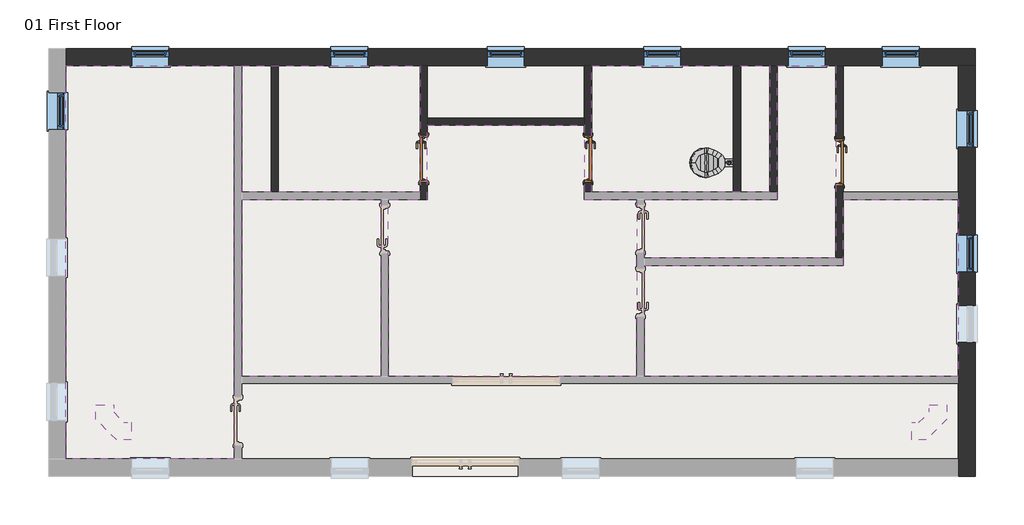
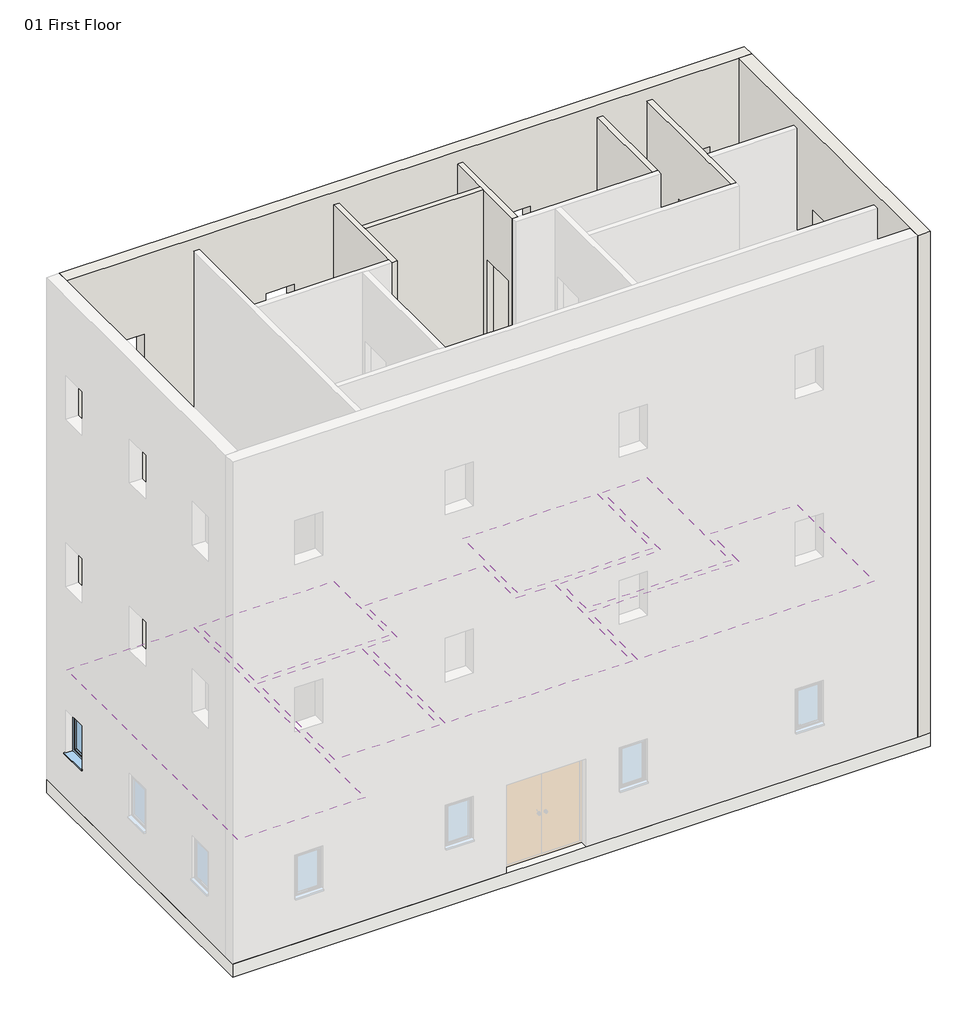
# One storey, part 2 of 2: 9 walls, 9 windows, 7 coverings, 3 doors, 2 cable carrier fittings, 1 flow terminal, 1 slab.
"""IFC4 building model written with IfcOpenShell, lengths in millimetres."""

from ifc_helpers import new_model, si_unit, frame, origin, origin_with_axes, place, context, project, spatial, polyline, outline, extrude, faceted_brep, transform, mapped, element, save
from components import cable_tray_horizontal_bend_standard_e2de60b4, intsgl_1_810_x_2110mm_5ef26f82, intsgl_1_810_x_2110mm_60c2a13c, m_water_closet_flush_valve_wall_mounted_private_6_1_lpf_4ab4cbdd, sgl_plain_630_x_1050mm_deep_554a1539

model = new_model("IFC4")

# Units and contexts
model_context = context("Model", 3, world=origin())
ifc_project = project(units=[si_unit("LENGTHUNIT", "METRE", prefix="MILLI")], contexts=[model_context])

# Site, building, storey
site = spatial("IfcSite", under=ifc_project)
building = spatial("IfcBuilding", under=site)
storey = spatial("IfcBuildingStorey", under=building, Name="01 First Floor", Elevation=0.0)

# Cable carrier fittings
placement = place(None, origin())
cable_tray_horizontal_bend_standard_shape = cable_tray_horizontal_bend_standard_e2de60b4(model_context)
element("IfcCableCarrierFitting", 1, ObjectType="Cable Tray Horizontal Bend : Standard", at=placement, inside=storey, context=model_context, shape_type="MappedRepresentation", body=[
    mapped(cable_tray_horizontal_bend_standard_shape, transform((8556.847993, -4345.0291205, 3000.0), x_axis=(1.0, 0.0, 0.0), y_axis=(0.0, 1.0, 0.0), z_axis=(0.0, 0.0, 1.0))),
])
element("IfcCableCarrierFitting", 2, ObjectType="Cable Tray Horizontal Bend : Standard", at=placement, inside=storey, context=model_context, shape_type="MappedRepresentation", body=[
    mapped(cable_tray_horizontal_bend_standard_shape, transform((-5643.152007, -4345.0291205, 3000.0), x_axis=(0.0, -1.0, 0.0), y_axis=(1.0, 0.0, 0.0), z_axis=(0.0, 0.0, 1.0))),
])

# Coverings
element("IfcCovering", 3, ObjectType="600 x 600mm grid 2", at=placement, inside=storey, context=model_context, shape_type="SweptSolid", body=[
    extrude(outline(polyline([(-3433.0198612, 1889.6075821), (-3433.0198612, -4820.3924179), (-6308.0198612, -4820.3924179), (-6308.0198612, 1889.6075821), (-3433.0198612, 1889.6075821)])), frame((0.0, 0.0, 2700.0), z_axis=(0.0, 0.0, 1.0), x_axis=(1.0, 0.0, 0.0)), (0.0, 0.0, 1.0), 52.0),
])
element("IfcCovering", 4, ObjectType="600 x 600mm grid 2", at=placement, inside=storey, context=model_context, shape_type="SweptSolid", body=[
    extrude(outline(polyline([(-3308.0198612, 1889.6075821), (-270.5198612, 1889.6075821), (-270.5198612, -265.3924179), (-3308.0198612, -265.3924179), (-3308.0198612, 1889.6075821)])), frame((0.0, 0.0, 2700.0), z_axis=(0.0, 0.0, 1.0), x_axis=(1.0, 0.0, 0.0)), (0.0, 0.0, 1.0), 52.0),
])
element("IfcCovering", 5, ObjectType="600 x 600mm grid 2", at=placement, inside=storey, context=model_context, shape_type="SweptSolid", body=[
    extrude(outline(polyline([(-3308.0198612, -390.3924179), (-933.0198612, -390.3924179), (-933.0198612, -3407.8924179), (-3308.0198612, -3407.8924179), (-3308.0198612, -390.3924179)])), frame((0.0, 0.0, 2700.0), z_axis=(0.0, 0.0, 1.0), x_axis=(1.0, 0.0, 0.0)), (0.0, 0.0, 1.0), 52.0),
])
element("IfcCovering", 6, ObjectType="600 x 600mm grid 2", at=placement, inside=storey, context=model_context, shape_type="SweptSolid", body=[
    extrude(outline(polyline([(-808.0198612, -390.3924179), (-145.5198612, -390.3924179), (-145.5198612, 872.1075821), (2529.4801388, 872.1075821), (2529.4801388, -390.3924179), (3426.9801388, -390.3924179), (3426.9801388, -3407.8924179), (-808.0198612, -3407.8924179), (-808.0198612, -390.3924179)])), frame((0.0, 0.0, 2700.0), z_axis=(0.0, 0.0, 1.0), x_axis=(1.0, 0.0, 0.0)), (0.0, 0.0, 1.0), 52.0),
])
element("IfcCovering", 7, ObjectType="600 x 600mm grid 2", at=placement, inside=storey, context=model_context, shape_type="SweptSolid", body=[
    extrude(outline(polyline([(2654.4801388, 1889.6075821), (5691.9801388, 1889.6075821), (5691.9801388, -265.3924179), (2654.4801388, -265.3924179), (2654.4801388, 1889.6075821)])), frame((0.0, 0.0, 2700.0), z_axis=(0.0, 0.0, 1.0), x_axis=(1.0, 0.0, 0.0)), (0.0, 0.0, 1.0), 52.0),
])
element("IfcCovering", 8, ObjectType="600 x 600mm grid 2", at=placement, inside=storey, context=model_context, shape_type="SweptSolid", body=[
    extrude(outline(polyline([(5816.9801388, 1889.6075821), (6816.9801388, 1889.6075821), (6816.9801388, -1390.3924179), (3551.9801388, -1390.3924179), (3551.9801388, -390.3924179), (5816.9801388, -390.3924179), (5816.9801388, 1889.6075821)])), frame((0.0, 0.0, 2700.0), z_axis=(0.0, 0.0, 1.0), x_axis=(1.0, 0.0, 0.0)), (0.0, 0.0, 1.0), 52.0),
])
element("IfcCovering", 9, ObjectType="600 x 600mm grid 2", at=placement, inside=storey, context=model_context, shape_type="SweptSolid", body=[
    extrude(outline(polyline([(8901.9801388, -390.3924179), (8901.9801388, -3407.8924179), (3551.9801388, -3407.8924179), (3551.9801388, -1515.3924179), (6941.9801388, -1515.3924179), (6941.9801388, -390.3924179), (8901.9801388, -390.3924179)])), frame((0.0, 0.0, 2700.0), z_axis=(0.0, 0.0, 1.0), x_axis=(1.0, 0.0, 0.0)), (0.0, 0.0, 1.0), 52.0),
])

# Doors
intsgl_1_810_x_2110mm_shape = intsgl_1_810_x_2110mm_5ef26f82(model_context)
element("IfcDoor", 10, ObjectType="IntSgl (1) : 810 x 2110mm", at=placement, inside=storey, context=model_context, shape_type="MappedRepresentation", body=[
    mapped(intsgl_1_810_x_2110mm_shape, transform((-208.0198612, 303.3575821, 0.0), x_axis=(0.0, -1.0, 0.0), y_axis=(1.0, 0.0, 0.0), z_axis=(0.0, 0.0, 1.0))),
])
intsgl_1_810_x_2110mm_2_shape = intsgl_1_810_x_2110mm_60c2a13c(model_context)
element("IfcDoor", 11, ObjectType="IntSgl (1) : 810 x 2110mm", at=placement, inside=storey, context=model_context, shape_type="MappedRepresentation", body=[
    mapped(intsgl_1_810_x_2110mm_2_shape, transform((2591.9801388, 303.3575821, 0.0), x_axis=(0.0, -1.0, 0.0), y_axis=(1.0, 0.0, 0.0), z_axis=(0.0, 0.0, 1.0))),
])
element("IfcDoor", 12, ObjectType="IntSgl (1) : 810 x 2110mm", at=placement, inside=storey, context=model_context, shape_type="MappedRepresentation", body=[
    mapped(intsgl_1_810_x_2110mm_2_shape, transform((6879.4801388, 239.6075821, 0.0), x_axis=(0.0, -1.0, 0.0), y_axis=(1.0, 0.0, 0.0), z_axis=(0.0, 0.0, 1.0))),
])

# Flow terminal
m_water_closet_flush_valve_wall_mounted_private_6_1_lpf_shape = m_water_closet_flush_valve_wall_mounted_private_6_1_lpf_4ab4cbdd(model_context)
element("IfcFlowTerminal", 13, ObjectType="M_Water Closet - Flush Valve - Wall Mounted : Private - 6.1 Lpf", at=placement, inside=storey, context=model_context, shape_type="MappedRepresentation", body=[
    mapped(m_water_closet_flush_valve_wall_mounted_private_6_1_lpf_shape, transform((5066.9801388, 234.0015903, 424.0175826), x_axis=(0.0, -1.0, 0.0), y_axis=(0.0, 0.0, 1.0), z_axis=(-1.0, 0.0, 0.0))),
])

# Slab
element("IfcSlab", 14, ObjectType="Beam and Block 225mm Susp Ground", at=placement, inside=storey, context=model_context, shape_type="SweptSolid", body=[
    extrude(outline(polyline([(9191.9801388, 2179.6075821), (9191.9801388, -5110.3924179), (-6598.0198612, -5110.3924179), (-6598.0198612, 2179.6075821), (9191.9801388, 2179.6075821)])), frame((0.0, 0.0, -320.0), z_axis=(0.0, 0.0, 1.0), x_axis=(1.0, 0.0, 0.0)), (0.0, 0.0, 1.0), 320.0),
])

# Walls
element("IfcWall", 15, ObjectType="Cav - 102 75i 100 p - Lwt", at=placement, inside=storey, context=model_context, shape_type="Brep", body=[
    faceted_brep([(9191.9801388, 2179.6075821, 0.0), (-6308.0198612, 2179.6075821, 0.0), (-6308.0198612, 2179.6075821, 12000.0), (9191.9801388, 2179.6075821, 12000.0), (-5185.5198612, 2179.6075821, 2110.0), (-5185.5198612, 2179.6075821, 1060.0), (-4555.5198612, 2179.6075821, 1060.0), (-4555.5198612, 2179.6075821, 2110.0), (-1791.7698612, 2179.6075821, 2110.0), (-1791.7698612, 2179.6075821, 1060.0), (-1161.7698612, 2179.6075821, 1060.0), (-1161.7698612, 2179.6075821, 2110.0), (876.9801388, 2179.6075821, 2110.0), (876.9801388, 2179.6075821, 1060.0), (1506.9801388, 2179.6075821, 1060.0), (1506.9801388, 2179.6075821, 2110.0), (3545.7301388, 2179.6075821, 2110.0), (3545.7301388, 2179.6075821, 1060.0), (4175.7301388, 2179.6075821, 1060.0), (4175.7301388, 2179.6075821, 2110.0), (6001.9801388, 2179.6075821, 2110.0), (6001.9801388, 2179.6075821, 1060.0), (6631.9801388, 2179.6075821, 1060.0), (6631.9801388, 2179.6075821, 2110.0), (7606.9801388, 2179.6075821, 2110.0), (7606.9801388, 2179.6075821, 1060.0), (8236.9801388, 2179.6075821, 1060.0), (8236.9801388, 2179.6075821, 2110.0), (7606.9801388, 2179.6075821, 6110.0), (7606.9801388, 2179.6075821, 5060.0), (8236.9801388, 2179.6075821, 5060.0), (8236.9801388, 2179.6075821, 6110.0), (6001.9801388, 2179.6075821, 6110.0), (6001.9801388, 2179.6075821, 5060.0), (6631.9801388, 2179.6075821, 5060.0), (6631.9801388, 2179.6075821, 6110.0), (3545.7301388, 2179.6075821, 6110.0), (3545.7301388, 2179.6075821, 5060.0), (4175.7301388, 2179.6075821, 5060.0), (4175.7301388, 2179.6075821, 6110.0), (876.9801388, 2179.6075821, 6110.0), (876.9801388, 2179.6075821, 5060.0), (1506.9801388, 2179.6075821, 5060.0), (1506.9801388, 2179.6075821, 6110.0), (-1791.7698612, 2179.6075821, 6110.0), (-1791.7698612, 2179.6075821, 5060.0), (-1161.7698612, 2179.6075821, 5060.0), (-1161.7698612, 2179.6075821, 6110.0), (-5185.5198612, 2179.6075821, 6110.0), (-5185.5198612, 2179.6075821, 5060.0), (-4555.5198612, 2179.6075821, 5060.0), (-4555.5198612, 2179.6075821, 6110.0), (7606.9801388, 2179.6075821, 10110.0), (7606.9801388, 2179.6075821, 9060.0), (8236.9801388, 2179.6075821, 9060.0), (8236.9801388, 2179.6075821, 10110.0), (6001.9801388, 2179.6075821, 10110.0), (6001.9801388, 2179.6075821, 9060.0), (6631.9801388, 2179.6075821, 9060.0), (6631.9801388, 2179.6075821, 10110.0), (3545.7301388, 2179.6075821, 10110.0), (3545.7301388, 2179.6075821, 9060.0), (4175.7301388, 2179.6075821, 9060.0), (4175.7301388, 2179.6075821, 10110.0), (876.9801388, 2179.6075821, 10110.0), (876.9801388, 2179.6075821, 9060.0), (1506.9801388, 2179.6075821, 9060.0), (1506.9801388, 2179.6075821, 10110.0), (-1791.7698612, 2179.6075821, 10110.0), (-1791.7698612, 2179.6075821, 9060.0), (-1161.7698612, 2179.6075821, 9060.0), (-1161.7698612, 2179.6075821, 10110.0), (-5185.5198612, 2179.6075821, 10110.0), (-5185.5198612, 2179.6075821, 9060.0), (-4555.5198612, 2179.6075821, 9060.0), (-4555.5198612, 2179.6075821, 10110.0), (9191.9801388, 1889.6075821, 0.0), (9191.9801388, 1889.6075821, 12000.0), (8901.9801388, 1889.6075821, 12000.0), (-6308.0198612, 1889.6075821, 12000.0), (-6308.0198612, 1889.6075821, 0.0), (-3433.0198612, 1889.6075821, 0.0), (-3308.0198612, 1889.6075821, 0.0), (-2808.0198612, 1889.6075821, 0.0), (-2683.0198612, 1889.6075821, 0.0), (-270.5198612, 1889.6075821, 0.0), (-145.5198612, 1889.6075821, 0.0), (2529.4801388, 1889.6075821, 0.0), (2654.4801388, 1889.6075821, 0.0), (5066.9801388, 1889.6075821, 0.0), (5191.9801388, 1889.6075821, 0.0), (5691.9801388, 1889.6075821, 0.0), (5816.9801388, 1889.6075821, 0.0), (6816.9801388, 1889.6075821, 0.0), (6941.9801388, 1889.6075821, 0.0), (8901.9801388, 1889.6075821, 0.0), (-5185.5198612, 1889.6075821, 2110.0), (-4555.5198612, 1889.6075821, 2110.0), (-4555.5198612, 1889.6075821, 1060.0), (-5185.5198612, 1889.6075821, 1060.0), (-1791.7698612, 1889.6075821, 2110.0), (-1161.7698612, 1889.6075821, 2110.0), (-1161.7698612, 1889.6075821, 1060.0), (-1791.7698612, 1889.6075821, 1060.0), (876.9801388, 1889.6075821, 2110.0), (1506.9801388, 1889.6075821, 2110.0), (1506.9801388, 1889.6075821, 1060.0), (876.9801388, 1889.6075821, 1060.0), (3545.7301388, 1889.6075821, 2110.0), (4175.7301388, 1889.6075821, 2110.0), (4175.7301388, 1889.6075821, 1060.0), (3545.7301388, 1889.6075821, 1060.0), (6001.9801388, 1889.6075821, 2110.0), (6631.9801388, 1889.6075821, 2110.0), (6631.9801388, 1889.6075821, 1060.0), (6001.9801388, 1889.6075821, 1060.0), (7606.9801388, 1889.6075821, 2110.0), (8236.9801388, 1889.6075821, 2110.0), (8236.9801388, 1889.6075821, 1060.0), (7606.9801388, 1889.6075821, 1060.0), (7606.9801388, 1889.6075821, 6110.0), (8236.9801388, 1889.6075821, 6110.0), (8236.9801388, 1889.6075821, 5060.0), (7606.9801388, 1889.6075821, 5060.0), (6001.9801388, 1889.6075821, 6110.0), (6631.9801388, 1889.6075821, 6110.0), (6631.9801388, 1889.6075821, 5060.0), (6001.9801388, 1889.6075821, 5060.0), (3545.7301388, 1889.6075821, 6110.0), (4175.7301388, 1889.6075821, 6110.0), (4175.7301388, 1889.6075821, 5060.0), (3545.7301388, 1889.6075821, 5060.0), (876.9801388, 1889.6075821, 6110.0), (1506.9801388, 1889.6075821, 6110.0), (1506.9801388, 1889.6075821, 5060.0), (876.9801388, 1889.6075821, 5060.0), (-1791.7698612, 1889.6075821, 6110.0), (-1161.7698612, 1889.6075821, 6110.0), (-1161.7698612, 1889.6075821, 5060.0), (-1791.7698612, 1889.6075821, 5060.0), (-5185.5198612, 1889.6075821, 6110.0), (-4555.5198612, 1889.6075821, 6110.0), (-4555.5198612, 1889.6075821, 5060.0), (-5185.5198612, 1889.6075821, 5060.0), (7606.9801388, 1889.6075821, 10110.0), (8236.9801388, 1889.6075821, 10110.0), (8236.9801388, 1889.6075821, 9060.0), (7606.9801388, 1889.6075821, 9060.0), (6001.9801388, 1889.6075821, 10110.0), (6631.9801388, 1889.6075821, 10110.0), (6631.9801388, 1889.6075821, 9060.0), (6001.9801388, 1889.6075821, 9060.0), (3545.7301388, 1889.6075821, 10110.0), (4175.7301388, 1889.6075821, 10110.0), (4175.7301388, 1889.6075821, 9060.0), (3545.7301388, 1889.6075821, 9060.0), (876.9801388, 1889.6075821, 10110.0), (1506.9801388, 1889.6075821, 10110.0), (1506.9801388, 1889.6075821, 9060.0), (876.9801388, 1889.6075821, 9060.0), (-1791.7698612, 1889.6075821, 10110.0), (-1161.7698612, 1889.6075821, 10110.0), (-1161.7698612, 1889.6075821, 9060.0), (-1791.7698612, 1889.6075821, 9060.0), (-5185.5198612, 1889.6075821, 10110.0), (-4555.5198612, 1889.6075821, 10110.0), (-4555.5198612, 1889.6075821, 9060.0), (-5185.5198612, 1889.6075821, 9060.0)], [[[0, 1, 2, 3], [4, 5, 6, 7], [8, 9, 10, 11], [12, 13, 14, 15], [16, 17, 18, 19], [20, 21, 22, 23], [24, 25, 26, 27], [28, 29, 30, 31], [32, 33, 34, 35], [36, 37, 38, 39], [40, 41, 42, 43], [44, 45, 46, 47], [48, 49, 50, 51], [52, 53, 54, 55], [56, 57, 58, 59], [60, 61, 62, 63], [64, 65, 66, 67], [68, 69, 70, 71], [72, 73, 74, 75]], [[76, 77, 78, 79, 80, 81, 82, 83, 84, 85, 86, 87, 88, 89, 90, 91, 92, 93, 94, 95], [96, 97, 98, 99], [100, 101, 102, 103], [104, 105, 106, 107], [108, 109, 110, 111], [112, 113, 114, 115], [116, 117, 118, 119], [120, 121, 122, 123], [124, 125, 126, 127], [128, 129, 130, 131], [132, 133, 134, 135], [136, 137, 138, 139], [140, 141, 142, 143], [144, 145, 146, 147], [148, 149, 150, 151], [152, 153, 154, 155], [156, 157, 158, 159], [160, 161, 162, 163], [164, 165, 166, 167]], [[1, 0, 76, 95, 94, 93, 92, 91, 90, 89, 88, 87, 86, 85, 84, 83, 82, 81, 80]], [[3, 2, 79, 78, 77]], [[0, 3, 77, 76]], [[2, 1, 80, 79]], [[5, 4, 96, 99]], [[6, 5, 99, 98]], [[7, 6, 98, 97]], [[4, 7, 97, 96]], [[9, 8, 100, 103]], [[10, 9, 103, 102]], [[11, 10, 102, 101]], [[8, 11, 101, 100]], [[13, 12, 104, 107]], [[14, 13, 107, 106]], [[15, 14, 106, 105]], [[12, 15, 105, 104]], [[17, 16, 108, 111]], [[18, 17, 111, 110]], [[19, 18, 110, 109]], [[16, 19, 109, 108]], [[21, 20, 112, 115]], [[22, 21, 115, 114]], [[23, 22, 114, 113]], [[20, 23, 113, 112]], [[25, 24, 116, 119]], [[26, 25, 119, 118]], [[27, 26, 118, 117]], [[24, 27, 117, 116]], [[29, 28, 120, 123]], [[30, 29, 123, 122]], [[31, 30, 122, 121]], [[28, 31, 121, 120]], [[33, 32, 124, 127]], [[34, 33, 127, 126]], [[35, 34, 126, 125]], [[32, 35, 125, 124]], [[37, 36, 128, 131]], [[38, 37, 131, 130]], [[39, 38, 130, 129]], [[36, 39, 129, 128]], [[41, 40, 132, 135]], [[42, 41, 135, 134]], [[43, 42, 134, 133]], [[40, 43, 133, 132]], [[45, 44, 136, 139]], [[46, 45, 139, 138]], [[47, 46, 138, 137]], [[44, 47, 137, 136]], [[49, 48, 140, 143]], [[50, 49, 143, 142]], [[51, 50, 142, 141]], [[48, 51, 141, 140]], [[53, 52, 144, 147]], [[54, 53, 147, 146]], [[55, 54, 146, 145]], [[52, 55, 145, 144]], [[57, 56, 148, 151]], [[58, 57, 151, 150]], [[59, 58, 150, 149]], [[56, 59, 149, 148]], [[61, 60, 152, 155]], [[62, 61, 155, 154]], [[63, 62, 154, 153]], [[60, 63, 153, 152]], [[65, 64, 156, 159]], [[66, 65, 159, 158]], [[67, 66, 158, 157]], [[64, 67, 157, 156]], [[69, 68, 160, 163]], [[70, 69, 163, 162]], [[71, 70, 162, 161]], [[68, 71, 161, 160]], [[73, 72, 164, 167]], [[74, 73, 167, 166]], [[75, 74, 166, 165]], [[72, 75, 165, 164]]]),
])
element("IfcWall", 16, ObjectType="Cav - 102 75i 100 p - Lwt", at=placement, inside=storey, context=model_context, shape_type="Brep", body=[
    faceted_brep([(9191.9801388, -5110.3924179, 0.0), (9191.9801388, 1889.6075821, 0.0), (9191.9801388, 1889.6075821, 12000.0), (9191.9801388, -5110.3924179, 12000.0), (9191.9801388, 1127.1075821, 2110.0), (9191.9801388, 1127.1075821, 1060.0), (9191.9801388, 497.1075821, 1060.0), (9191.9801388, 497.1075821, 2110.0), (9191.9801388, -999.9924179, 2110.0), (9191.9801388, -999.9924179, 1060.0), (9191.9801388, -1629.9924179, 1060.0), (9191.9801388, -1629.9924179, 2110.0), (9191.9801388, -2203.9424179, 2110.0), (9191.9801388, -2203.9424179, 1060.0), (9191.9801388, -2833.9424179, 1060.0), (9191.9801388, -2833.9424179, 2110.0), (9191.9801388, -2203.9424179, 6110.0), (9191.9801388, -2203.9424179, 5060.0), (9191.9801388, -2833.9424179, 5060.0), (9191.9801388, -2833.9424179, 6110.0), (9191.9801388, -999.9924179, 6110.0), (9191.9801388, -999.9924179, 5060.0), (9191.9801388, -1629.9924179, 5060.0), (9191.9801388, -1629.9924179, 6110.0), (9191.9801388, 1127.1075821, 6110.0), (9191.9801388, 1127.1075821, 5060.0), (9191.9801388, 497.1075821, 5060.0), (9191.9801388, 497.1075821, 6110.0), (9191.9801388, -2203.9424179, 10110.0), (9191.9801388, -2203.9424179, 9060.0), (9191.9801388, -2833.9424179, 9060.0), (9191.9801388, -2833.9424179, 10110.0), (9191.9801388, -999.9924179, 10110.0), (9191.9801388, -999.9924179, 9060.0), (9191.9801388, -1629.9924179, 9060.0), (9191.9801388, -1629.9924179, 10110.0), (9191.9801388, 1127.1075821, 10110.0), (9191.9801388, 1127.1075821, 9060.0), (9191.9801388, 497.1075821, 9060.0), (9191.9801388, 497.1075821, 10110.0), (8901.9801388, -5110.3924179, 0.0), (8901.9801388, -5110.3924179, 12000.0), (8901.9801388, -4820.3924179, 12000.0), (8901.9801388, 1889.6075821, 12000.0), (8901.9801388, 1889.6075821, 0.0), (8901.9801388, -265.3924179, 0.0), (8901.9801388, -390.3924179, 0.0), (8901.9801388, -3407.8924179, 0.0), (8901.9801388, -3532.8924179, 0.0), (8901.9801388, -4820.3924179, 0.0), (8901.9801388, 1127.1075821, 2110.0), (8901.9801388, 497.1075821, 2110.0), (8901.9801388, 497.1075821, 1060.0), (8901.9801388, 1127.1075821, 1060.0), (8901.9801388, -999.9924179, 2110.0), (8901.9801388, -1629.9924179, 2110.0), (8901.9801388, -1629.9924179, 1060.0), (8901.9801388, -999.9924179, 1060.0), (8901.9801388, -2203.9424179, 2110.0), (8901.9801388, -2833.9424179, 2110.0), (8901.9801388, -2833.9424179, 1060.0), (8901.9801388, -2203.9424179, 1060.0), (8901.9801388, -2203.9424179, 6110.0), (8901.9801388, -2833.9424179, 6110.0), (8901.9801388, -2833.9424179, 5060.0), (8901.9801388, -2203.9424179, 5060.0), (8901.9801388, -999.9924179, 6110.0), (8901.9801388, -1629.9924179, 6110.0), (8901.9801388, -1629.9924179, 5060.0), (8901.9801388, -999.9924179, 5060.0), (8901.9801388, 1127.1075821, 6110.0), (8901.9801388, 497.1075821, 6110.0), (8901.9801388, 497.1075821, 5060.0), (8901.9801388, 1127.1075821, 5060.0), (8901.9801388, -2203.9424179, 10110.0), (8901.9801388, -2833.9424179, 10110.0), (8901.9801388, -2833.9424179, 9060.0), (8901.9801388, -2203.9424179, 9060.0), (8901.9801388, -999.9924179, 10110.0), (8901.9801388, -1629.9924179, 10110.0), (8901.9801388, -1629.9924179, 9060.0), (8901.9801388, -999.9924179, 9060.0), (8901.9801388, 1127.1075821, 10110.0), (8901.9801388, 497.1075821, 10110.0), (8901.9801388, 497.1075821, 9060.0), (8901.9801388, 1127.1075821, 9060.0)], [[[0, 1, 2, 3], [4, 5, 6, 7], [8, 9, 10, 11], [12, 13, 14, 15], [16, 17, 18, 19], [20, 21, 22, 23], [24, 25, 26, 27], [28, 29, 30, 31], [32, 33, 34, 35], [36, 37, 38, 39]], [[40, 41, 42, 43, 44, 45, 46, 47, 48, 49], [50, 51, 52, 53], [54, 55, 56, 57], [58, 59, 60, 61], [62, 63, 64, 65], [66, 67, 68, 69], [70, 71, 72, 73], [74, 75, 76, 77], [78, 79, 80, 81], [82, 83, 84, 85]], [[1, 0, 40, 49, 48, 47, 46, 45, 44]], [[3, 2, 43, 42, 41]], [[0, 3, 41, 40]], [[2, 1, 44, 43]], [[5, 4, 50, 53]], [[6, 5, 53, 52]], [[7, 6, 52, 51]], [[4, 7, 51, 50]], [[9, 8, 54, 57]], [[10, 9, 57, 56]], [[11, 10, 56, 55]], [[8, 11, 55, 54]], [[13, 12, 58, 61]], [[14, 13, 61, 60]], [[15, 14, 60, 59]], [[12, 15, 59, 58]], [[17, 16, 62, 65]], [[18, 17, 65, 64]], [[19, 18, 64, 63]], [[16, 19, 63, 62]], [[21, 20, 66, 69]], [[22, 21, 69, 68]], [[23, 22, 68, 67]], [[20, 23, 67, 66]], [[25, 24, 70, 73]], [[26, 25, 73, 72]], [[27, 26, 72, 71]], [[24, 27, 71, 70]], [[29, 28, 74, 77]], [[30, 29, 77, 76]], [[31, 30, 76, 75]], [[28, 31, 75, 74]], [[33, 32, 78, 81]], [[34, 33, 81, 80]], [[35, 34, 80, 79]], [[32, 35, 79, 78]], [[37, 36, 82, 85]], [[38, 37, 85, 84]], [[39, 38, 84, 83]], [[36, 39, 83, 82]]]),
])
element("IfcWall", 17, ObjectType="Partn - p 100 p - Block", at=placement, inside=storey, context=model_context, shape_type="Brep", body=[
    faceted_brep([(-270.5198612, -390.3924179, 11700.0), (-270.5198612, -265.3924179, 11700.0), (-270.5198612, 1889.6075821, 11700.0), (-270.5198612, 1889.6075821, 0.0), (-270.5198612, 708.3575821, 0.0), (-270.5198612, 708.3575821, 2110.0), (-270.5198612, -101.6424179, 2110.0), (-270.5198612, -101.6424179, 0.0), (-270.5198612, -265.3924179, 0.0), (-270.5198612, -390.3924179, 0.0), (-270.5198612, -101.6424179, 4000.0), (-270.5198612, 708.3575821, 4000.0), (-270.5198612, 708.3575821, 6110.0), (-270.5198612, -101.6424179, 6110.0), (-270.5198612, -101.6424179, 8000.0), (-270.5198612, 708.3575821, 8000.0), (-270.5198612, 708.3575821, 10110.0), (-270.5198612, -101.6424179, 10110.0), (-145.5198612, 1889.6075821, 11700.0), (-145.5198612, 997.1075821, 11700.0), (-145.5198612, 872.1075821, 11700.0), (-145.5198612, -390.3924179, 11700.0), (-145.5198612, -390.3924179, 0.0), (-145.5198612, -101.6424179, 0.0), (-145.5198612, -101.6424179, 2110.0), (-145.5198612, 708.3575821, 2110.0), (-145.5198612, 708.3575821, 0.0), (-145.5198612, 872.1075821, 0.0), (-145.5198612, 997.1075821, 0.0), (-145.5198612, 1889.6075821, 0.0), (-145.5198612, -101.6424179, 4000.0), (-145.5198612, -101.6424179, 6110.0), (-145.5198612, 708.3575821, 6110.0), (-145.5198612, 708.3575821, 4000.0), (-145.5198612, -101.6424179, 8000.0), (-145.5198612, -101.6424179, 10110.0), (-145.5198612, 708.3575821, 10110.0), (-145.5198612, 708.3575821, 8000.0)], [[[0, 1, 2, 3, 4, 5, 6, 7, 8, 9], [10, 11, 12, 13], [14, 15, 16, 17]], [[18, 19, 20, 21, 22, 23, 24, 25, 26, 27, 28, 29], [30, 31, 32, 33], [34, 35, 36, 37]], [[3, 29, 28, 27, 26, 4]], [[22, 9, 8, 7, 23]], [[2, 1, 0, 21, 20, 19, 18]], [[3, 2, 18, 29]], [[0, 9, 22, 21]], [[6, 24, 23, 7]], [[24, 6, 5, 25]], [[25, 5, 4, 26]], [[31, 30, 10, 13]], [[32, 31, 13, 12]], [[33, 32, 12, 11]], [[30, 33, 11, 10]], [[35, 34, 14, 17]], [[36, 35, 17, 16]], [[37, 36, 16, 15]], [[34, 37, 15, 14]]]),
])
element("IfcWall", 18, ObjectType="Partn - p 100 p - Block", at=placement, inside=storey, context=model_context, shape_type="SweptSolid", body=[
    extrude(outline(polyline([(2529.4801388, 872.1075821), (-145.5198612, 872.1075821), (-145.5198612, 997.1075821), (2529.4801388, 997.1075821), (2529.4801388, 872.1075821)])), origin_with_axes(), (0.0, 0.0, 1.0), 11700.0),
])
element("IfcWall", 19, ObjectType="Partn - p 100 p - Block", at=placement, inside=storey, context=model_context, shape_type="Brep", body=[
    faceted_brep([(2654.4801388, 1889.6075821, 11700.0), (2654.4801388, -265.3924179, 11700.0), (2654.4801388, -265.3924179, 0.0), (2654.4801388, -101.6424179, 0.0), (2654.4801388, -101.6424179, 2110.0), (2654.4801388, 708.3575821, 2110.0), (2654.4801388, 708.3575821, 0.0), (2654.4801388, 1889.6075821, 0.0), (2654.4801388, -101.6424179, 4000.0), (2654.4801388, -101.6424179, 6110.0), (2654.4801388, 708.3575821, 6110.0), (2654.4801388, 708.3575821, 4000.0), (2654.4801388, -101.6424179, 8000.0), (2654.4801388, -101.6424179, 10110.0), (2654.4801388, 708.3575821, 10110.0), (2654.4801388, 708.3575821, 8000.0), (2529.4801388, -265.3924179, 11700.0), (2529.4801388, 872.1075821, 11700.0), (2529.4801388, 997.1075821, 11700.0), (2529.4801388, 1889.6075821, 11700.0), (2529.4801388, 1889.6075821, 0.0), (2529.4801388, 997.1075821, 0.0), (2529.4801388, 872.1075821, 0.0), (2529.4801388, 708.3575821, 0.0), (2529.4801388, 708.3575821, 2110.0), (2529.4801388, -101.6424179, 2110.0), (2529.4801388, -101.6424179, 0.0), (2529.4801388, -265.3924179, 0.0), (2529.4801388, -101.6424179, 4000.0), (2529.4801388, 708.3575821, 4000.0), (2529.4801388, 708.3575821, 6110.0), (2529.4801388, -101.6424179, 6110.0), (2529.4801388, -101.6424179, 8000.0), (2529.4801388, 708.3575821, 8000.0), (2529.4801388, 708.3575821, 10110.0), (2529.4801388, -101.6424179, 10110.0)], [[[0, 1, 2, 3, 4, 5, 6, 7], [8, 9, 10, 11], [12, 13, 14, 15]], [[16, 17, 18, 19, 20, 21, 22, 23, 24, 25, 26, 27], [28, 29, 30, 31], [32, 33, 34, 35]], [[20, 7, 6, 23, 22, 21]], [[2, 27, 26, 3]], [[1, 0, 19, 18, 17, 16]], [[0, 7, 20, 19]], [[2, 1, 16, 27]], [[25, 4, 3, 26]], [[4, 25, 24, 5]], [[5, 24, 23, 6]], [[9, 8, 28, 31]], [[10, 9, 31, 30]], [[11, 10, 30, 29]], [[8, 11, 29, 28]], [[13, 12, 32, 35]], [[14, 13, 35, 34]], [[15, 14, 34, 33]], [[12, 15, 33, 32]]]),
])
element("IfcWall", 20, ObjectType="Partn - p 100 p - Block", at=placement, inside=storey, context=model_context, shape_type="SweptSolid", body=[
    extrude(outline(polyline([(5816.9801388, 1889.6075821), (5816.9801388, -265.3924179), (5691.9801388, -265.3924179), (5691.9801388, 1889.6075821), (5816.9801388, 1889.6075821)])), origin_with_axes(), (0.0, 0.0, 1.0), 11700.0),
])
element("IfcWall", 21, ObjectType="Partn - p 100 p - Block", at=placement, inside=storey, context=model_context, shape_type="Brep", body=[
    faceted_brep([(6816.9801388, -1390.3924179, 11700.0), (6816.9801388, 1889.6075821, 11700.0), (6816.9801388, 1889.6075821, 0.0), (6816.9801388, 644.6075821, 0.0), (6816.9801388, 644.6075821, 2110.0), (6816.9801388, -165.3924179, 2110.0), (6816.9801388, -165.3924179, 0.0), (6816.9801388, -1390.3924179, 0.0), (6816.9801388, -165.3924179, 4000.0), (6816.9801388, 644.6075821, 4000.0), (6816.9801388, 644.6075821, 6110.0), (6816.9801388, -165.3924179, 6110.0), (6816.9801388, -165.3924179, 8000.0), (6816.9801388, 644.6075821, 8000.0), (6816.9801388, 644.6075821, 10110.0), (6816.9801388, -165.3924179, 10110.0), (6941.9801388, 1889.6075821, 11700.0), (6941.9801388, -265.3924179, 11700.0), (6941.9801388, -390.3924179, 11700.0), (6941.9801388, -1390.3924179, 11700.0), (6941.9801388, -1390.3924179, 0.0), (6941.9801388, -390.3924179, 0.0), (6941.9801388, -265.3924179, 0.0), (6941.9801388, -165.3924179, 0.0), (6941.9801388, -165.3924179, 2110.0), (6941.9801388, 644.6075821, 2110.0), (6941.9801388, 644.6075821, 0.0), (6941.9801388, 1889.6075821, 0.0), (6941.9801388, -165.3924179, 4000.0), (6941.9801388, -165.3924179, 6110.0), (6941.9801388, 644.6075821, 6110.0), (6941.9801388, 644.6075821, 4000.0), (6941.9801388, -165.3924179, 8000.0), (6941.9801388, -165.3924179, 10110.0), (6941.9801388, 644.6075821, 10110.0), (6941.9801388, 644.6075821, 8000.0)], [[[0, 1, 2, 3, 4, 5, 6, 7], [8, 9, 10, 11], [12, 13, 14, 15]], [[16, 17, 18, 19, 20, 21, 22, 23, 24, 25, 26, 27], [28, 29, 30, 31], [32, 33, 34, 35]], [[2, 27, 26, 3]], [[20, 7, 6, 23, 22, 21]], [[1, 0, 19, 18, 17, 16]], [[2, 1, 16, 27]], [[0, 7, 20, 19]], [[5, 24, 23, 6]], [[24, 5, 4, 25]], [[25, 4, 3, 26]], [[29, 28, 8, 11]], [[30, 29, 11, 10]], [[31, 30, 10, 9]], [[28, 31, 9, 8]], [[33, 32, 12, 15]], [[34, 33, 15, 14]], [[35, 34, 14, 13]], [[32, 35, 13, 12]]]),
])
element("IfcWall", 22, ObjectType="Partn - p 100 p - Block", at=placement, inside=storey, context=model_context, shape_type="SweptSolid", body=[
    extrude(outline(polyline([(5066.9801388, -265.3924179), (5066.9801388, 1889.6075821), (5191.9801388, 1889.6075821), (5191.9801388, -265.3924179), (5066.9801388, -265.3924179)])), origin_with_axes(), (0.0, 0.0, 1.0), 2700.0),
])
element("IfcWall", 23, ObjectType="Partn - p 100 p - Block", at=placement, inside=storey, context=model_context, shape_type="SweptSolid", body=[
    extrude(outline(polyline([(-2683.0198612, 1889.6075821), (-2683.0198612, -265.3924179), (-2808.0198612, -265.3924179), (-2808.0198612, 1889.6075821), (-2683.0198612, 1889.6075821)])), origin_with_axes(), (0.0, 0.0, 1.0), 2700.0),
])

# Windows
sgl_plain_630_x_1050mm_deep_shape = sgl_plain_630_x_1050mm_deep_554a1539(model_context)
element("IfcWindow", 24, ObjectType="Sgl Plain : 630 x 1050mm Deep", at=placement, inside=storey, context=model_context, shape_type="MappedRepresentation", body=[
    mapped(sgl_plain_630_x_1050mm_deep_shape, transform((-6461.476429, 1117.4075821, 0.0), x_axis=(0.0, -1.0, 0.0), y_axis=(1.0, 0.0, 0.0), z_axis=(0.0, 0.0, 1.0))),
])
element("IfcWindow", 25, ObjectType="Sgl Plain : 630 x 1050mm Deep", at=placement, inside=storey, context=model_context, shape_type="MappedRepresentation", body=[
    mapped(sgl_plain_630_x_1050mm_deep_shape, transform((-4870.5198612, 2026.1510143, 0.0), x_axis=(1.0, 0.0, 0.0), y_axis=(0.0, 1.0, 0.0), z_axis=(0.0, 0.0, 1.0))),
])
element("IfcWindow", 26, ObjectType="Sgl Plain : 630 x 1050mm Deep", at=placement, inside=storey, context=model_context, shape_type="MappedRepresentation", body=[
    mapped(sgl_plain_630_x_1050mm_deep_shape, transform((-1476.7698612, 2026.1510143, 0.0), x_axis=(1.0, 0.0, 0.0), y_axis=(0.0, 1.0, 0.0), z_axis=(0.0, 0.0, 1.0))),
])
element("IfcWindow", 27, ObjectType="Sgl Plain : 630 x 1050mm Deep", at=placement, inside=storey, context=model_context, shape_type="MappedRepresentation", body=[
    mapped(sgl_plain_630_x_1050mm_deep_shape, transform((1191.9801388, 2026.1510143, 0.0), x_axis=(1.0, 0.0, 0.0), y_axis=(0.0, 1.0, 0.0), z_axis=(0.0, 0.0, 1.0))),
])
element("IfcWindow", 28, ObjectType="Sgl Plain : 630 x 1050mm Deep", at=placement, inside=storey, context=model_context, shape_type="MappedRepresentation", body=[
    mapped(sgl_plain_630_x_1050mm_deep_shape, transform((3860.7301388, 2026.1510143, 0.0), x_axis=(1.0, 0.0, 0.0), y_axis=(0.0, 1.0, 0.0), z_axis=(0.0, 0.0, 1.0))),
])
element("IfcWindow", 29, ObjectType="Sgl Plain : 630 x 1050mm Deep", at=placement, inside=storey, context=model_context, shape_type="MappedRepresentation", body=[
    mapped(sgl_plain_630_x_1050mm_deep_shape, transform((6316.9801388, 2026.1510143, 0.0), x_axis=(1.0, 0.0, 0.0), y_axis=(0.0, 1.0, 0.0), z_axis=(0.0, 0.0, 1.0))),
])
element("IfcWindow", 30, ObjectType="Sgl Plain : 630 x 1050mm Deep", at=placement, inside=storey, context=model_context, shape_type="MappedRepresentation", body=[
    mapped(sgl_plain_630_x_1050mm_deep_shape, transform((7921.9801388, 2026.1510143, 0.0), x_axis=(1.0, 0.0, 0.0), y_axis=(0.0, 1.0, 0.0), z_axis=(0.0, 0.0, 1.0))),
])
element("IfcWindow", 31, ObjectType="Sgl Plain : 630 x 1050mm Deep", at=placement, inside=storey, context=model_context, shape_type="MappedRepresentation", body=[
    mapped(sgl_plain_630_x_1050mm_deep_shape, transform((9038.523571, 812.1075821, 0.0), x_axis=(0.0, -1.0, 0.0), y_axis=(1.0, 0.0, 0.0), z_axis=(0.0, 0.0, 1.0))),
])
element("IfcWindow", 32, ObjectType="Sgl Plain : 630 x 1050mm Deep", at=placement, inside=storey, context=model_context, shape_type="MappedRepresentation", body=[
    mapped(sgl_plain_630_x_1050mm_deep_shape, transform((9038.523571, -1314.9924179, 0.0), x_axis=(0.0, -1.0, 0.0), y_axis=(1.0, 0.0, 0.0), z_axis=(0.0, 0.0, 1.0))),
])

save(model, "model.ifc")
